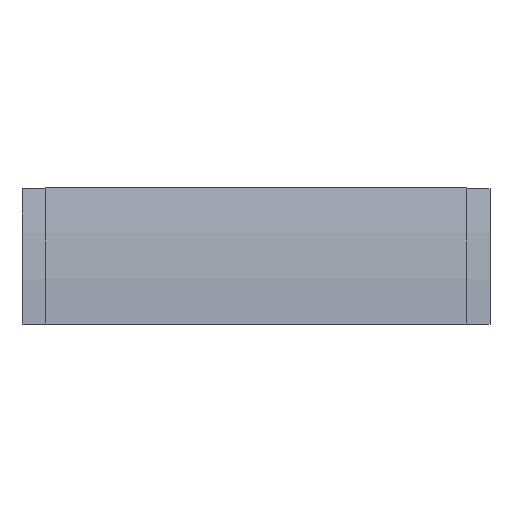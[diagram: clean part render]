
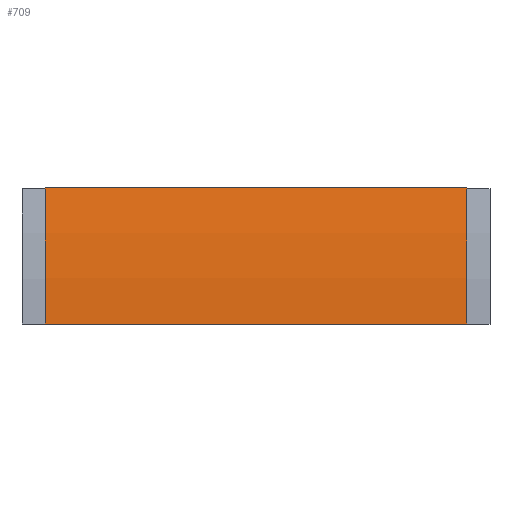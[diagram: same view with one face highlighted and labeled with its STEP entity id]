
A CAD part, front view. The second image highlights one B-rep face of the part: STEP entity #709.
In plain terms, the highlighted cylindrical face has radius 568 mm (diameter 1136 mm), a partial arc.
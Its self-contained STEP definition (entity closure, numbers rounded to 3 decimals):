
#52 = EDGE_LOOP ( 'NONE', ( #128, #127, #126, #125 ) ) ;
#125 = ORIENTED_EDGE ( 'NONE', *, *, #948, .T. ) ;
#126 = ORIENTED_EDGE ( 'NONE', *, *, #927, .T. ) ;
#127 = ORIENTED_EDGE ( 'NONE', *, *, #945, .F. ) ;
#128 = ORIENTED_EDGE ( 'NONE', *, *, #950, .F. ) ;
#228 = VERTEX_POINT ( 'NONE', #576 ) ;
#257 = VERTEX_POINT ( 'NONE', #466 ) ;
#259 = VERTEX_POINT ( 'NONE', #464 ) ;
#269 = VERTEX_POINT ( 'NONE', #479 ) ;
#407 = FACE_OUTER_BOUND ( 'NONE', #52, .T. ) ;
#411 = CYLINDRICAL_SURFACE ( 'NONE', #947, 568. ) ;
#413 = CIRCLE ( 'NONE', #942, 568. ) ;
#419 = LINE ( 'NONE', #881, #422 ) ;
#421 = LINE ( 'NONE', #878, #424 ) ;
#422 = VECTOR ( 'NONE', #880, 1000. ) ;
#423 = CIRCLE ( 'NONE', #955, 568. ) ;
#424 = VECTOR ( 'NONE', #876, 1000. ) ;
#464 = CARTESIAN_POINT ( 'NONE',  ( -190.5, -68., 0. ) ) ;
#466 = CARTESIAN_POINT ( 'NONE',  ( 190.5, -68., 0. ) ) ;
#479 = CARTESIAN_POINT ( 'NONE',  ( -190.5, -54.536, 122.938 ) ) ;
#576 = CARTESIAN_POINT ( 'NONE',  ( 190.5, -54.536, 122.938 ) ) ;
#709 = ADVANCED_FACE ( 'NONE', ( #407 ), #411, .T. ) ;
#868 = DIRECTION ( 'NONE',  ( 0., 0., -1. ) ) ;
#869 = DIRECTION ( 'NONE',  ( 1., 0., 0. ) ) ;
#871 = CARTESIAN_POINT ( 'NONE',  ( 190.5, 500., 0. ) ) ;
#875 = DIRECTION ( 'NONE',  ( 1., 0., 0. ) ) ;
#876 = DIRECTION ( 'NONE',  ( 1., 0., 0. ) ) ;
#878 = CARTESIAN_POINT ( 'NONE',  ( -190.5, -68., 0. ) ) ;
#880 = DIRECTION ( 'NONE',  ( 1., 0., 0. ) ) ;
#881 = CARTESIAN_POINT ( 'NONE',  ( -190.5, -54.536, 122.938 ) ) ;
#885 = DIRECTION ( 'NONE',  ( 0., 0., -1. ) ) ;
#886 = DIRECTION ( 'NONE',  ( 1., 0., 0. ) ) ;
#888 = CARTESIAN_POINT ( 'NONE',  ( -190.5, 500., 0. ) ) ;
#923 = CARTESIAN_POINT ( 'NONE',  ( 0., 500., 0. ) ) ;
#924 = DIRECTION ( 'NONE',  ( 0., 0., -1. ) ) ;
#927 = EDGE_CURVE ( 'NONE', #269, #259, #413, .T. ) ;
#942 = AXIS2_PLACEMENT_3D ( 'NONE', #888, #886, #885 ) ;
#945 = EDGE_CURVE ( 'NONE', #269, #228, #419, .T. ) ;
#947 = AXIS2_PLACEMENT_3D ( 'NONE', #923, #875, #924 ) ;
#948 = EDGE_CURVE ( 'NONE', #259, #257, #421, .T. ) ;
#950 = EDGE_CURVE ( 'NONE', #228, #257, #423, .T. ) ;
#955 = AXIS2_PLACEMENT_3D ( 'NONE', #871, #869, #868 ) ;
